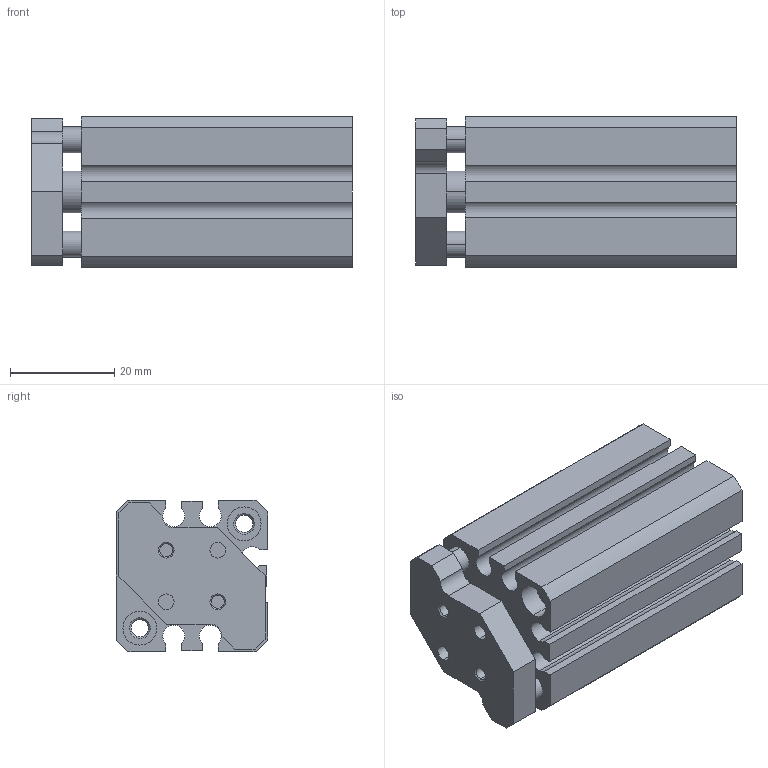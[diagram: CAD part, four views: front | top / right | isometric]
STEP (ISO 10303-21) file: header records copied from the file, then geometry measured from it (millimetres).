
FILE_DESCRIPTION (( 'STEP AP203' ), '1' );
FILE_NAME ('CCMG16-30.STEP', '2020-04-01T18:19:11', ( '' ), ( '' ), 'SwSTEP 2.0', 'SolidWorks 2019', '' );
FILE_SCHEMA (( 'CONFIG_CONTROL_DESIGN' ));
Length unit declared in the file: millimetre
Products named in the file (1): CCMG16-30
Bounding box: 61.5 x 29 x 29 mm (x, y, z)
Volume: 35054.2 mm3; surface area: 20316.3 mm2
Topology: 2 solids, 2 shells, 144 faces, 348 edges, 222 vertices
Faces by surface type: cylinder 68, plane 52, cone 24
Entity records: 4307 total; most frequent: DIRECTION 790, CARTESIAN_POINT 711, ORIENTED_EDGE 688, EDGE_CURVE 344, AXIS2_PLACEMENT_3D 301, VERTEX_POINT 222, VECTOR 188, LINE 188
